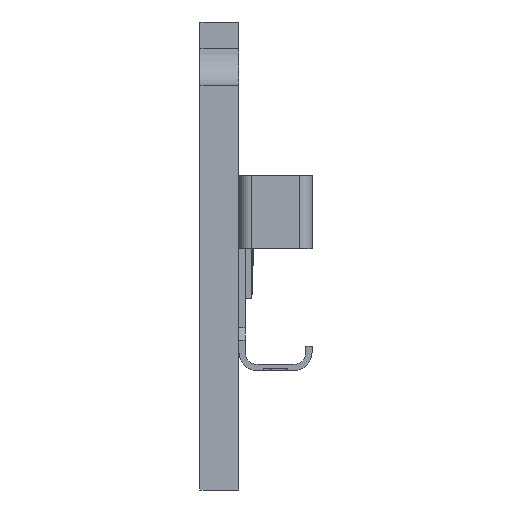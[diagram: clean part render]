
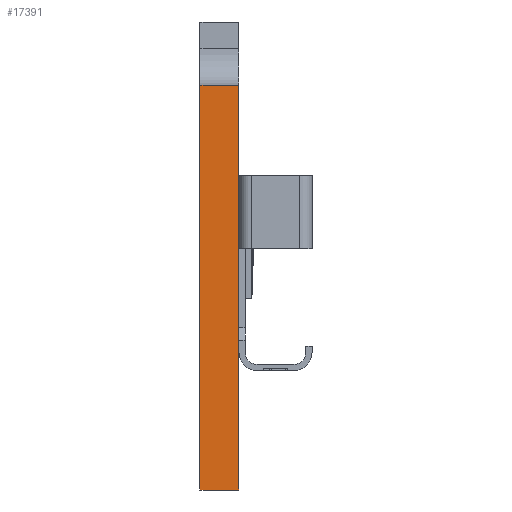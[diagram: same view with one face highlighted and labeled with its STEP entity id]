
A CAD part, left-side view. The second image highlights one B-rep face of the part: STEP entity #17391.
In plain terms, the highlighted planar face has unit normal (-1, 0, 0).
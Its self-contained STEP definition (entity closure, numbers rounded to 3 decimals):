
#441=ORIENTED_EDGE('',*,*,#4041,.F.);
#442=ORIENTED_EDGE('',*,*,#4005,.F.);
#443=ORIENTED_EDGE('',*,*,#3982,.T.);
#444=ORIENTED_EDGE('',*,*,#4040,.T.);
#3982=EDGE_CURVE('',#5814,#5815,#7088,.T.);
#4005=EDGE_CURVE('',#5814,#5836,#7102,.T.);
#4040=EDGE_CURVE('',#5815,#5855,#7128,.T.);
#4041=EDGE_CURVE('',#5836,#5855,#7129,.T.);
#5814=VERTEX_POINT('',#22268);
#5815=VERTEX_POINT('',#22269);
#5836=VERTEX_POINT('',#22312);
#5855=VERTEX_POINT('',#22386);
#7088=LINE('',#22267,#8862);
#7102=LINE('',#22314,#8876);
#7128=LINE('',#22387,#8902);
#7129=LINE('',#22389,#8903);
#8862=VECTOR('',#18941,1000.);
#8876=VECTOR('',#18975,1000.);
#8902=VECTOR('',#19057,1000.);
#8903=VECTOR('',#19060,1000.);
#10604=EDGE_LOOP('',(#441,#442,#443,#444));
#11340=FACE_BOUND('',#10604,.T.);
#12058=PLANE('',#18085);
#17391=ADVANCED_FACE('',(#11340),#12058,.T.);
#18085=AXIS2_PLACEMENT_3D('',#22388,#19058,#19059);
#18941=DIRECTION('',(0.,0.,-1.));
#18975=DIRECTION('',(0.,-1.,0.));
#19057=DIRECTION('',(0.,-1.,0.));
#19058=DIRECTION('',(-1.,0.,0.));
#19059=DIRECTION('',(0.,0.,1.));
#19060=DIRECTION('',(0.,0.,-1.));
#22267=CARTESIAN_POINT('',(-140.5,1.6,7.));
#22268=CARTESIAN_POINT('',(-140.5,1.6,7.));
#22269=CARTESIAN_POINT('',(-140.5,1.6,-9.6));
#22312=CARTESIAN_POINT('',(-140.5,0.,7.));
#22314=CARTESIAN_POINT('',(-140.5,1.6,7.));
#22386=CARTESIAN_POINT('',(-140.5,0.,-9.6));
#22387=CARTESIAN_POINT('',(-140.5,1.6,-9.6));
#22388=CARTESIAN_POINT('',(-140.5,1.6,7.));
#22389=CARTESIAN_POINT('',(-140.5,0.,7.));
